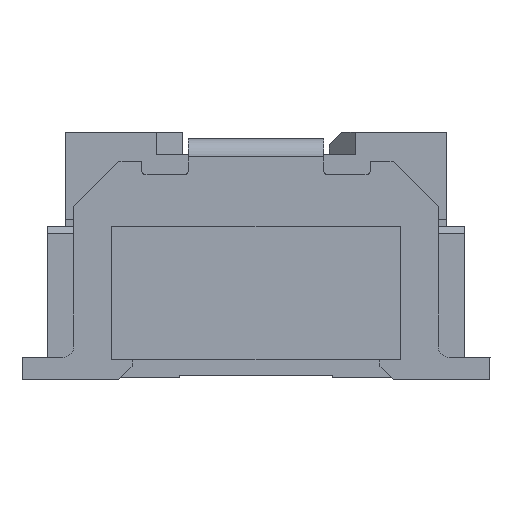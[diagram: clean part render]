
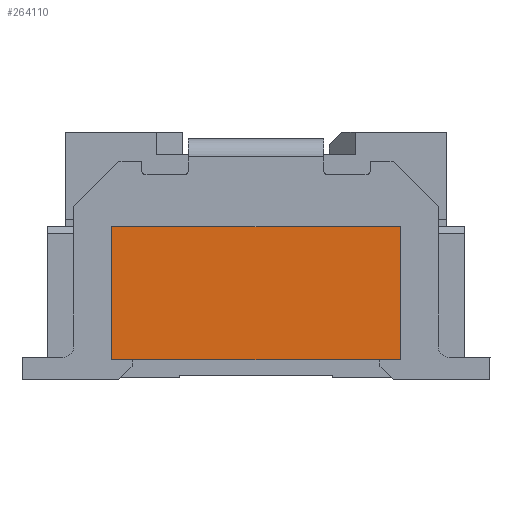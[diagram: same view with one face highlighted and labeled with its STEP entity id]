
A CAD part, left-side view. The second image highlights one B-rep face of the part: STEP entity #264110.
In plain terms, the highlighted planar face has unit normal (-1, 0, 0).
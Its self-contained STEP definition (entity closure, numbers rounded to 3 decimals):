
#248300=CARTESIAN_POINT('',(0.607,-0.02,
-3.22));
#248310=VERTEX_POINT('',#248300);
#248340=CARTESIAN_POINT('',(0.607,-0.02,
-5.031));
#248350=DIRECTION('',(0.,0.,-1.));
#248360=VECTOR('',#248350,1.);
#248370=LINE('',#248340,#248360);
#248380=CARTESIAN_POINT('',(0.607,-0.02,
3.18));
#248390=VERTEX_POINT('',#248380);
#248400=EDGE_CURVE('',#248390,#248310,#248370,.T.);
#263290=CARTESIAN_POINT('',(0.607,2.93,
-3.22));
#263300=VERTEX_POINT('',#263290);
#263330=CARTESIAN_POINT('',(0.607,-0.507,
-3.22));
#263340=DIRECTION('',(0.,-1.,0.));
#263350=VECTOR('',#263340,1.);
#263360=LINE('',#263330,#263350);
#263370=EDGE_CURVE('',#263300,#248310,#263360,.T.);
#263610=CARTESIAN_POINT('',(0.607,-0.507,
3.18));
#263620=DIRECTION('',(0.,1.,0.));
#263630=VECTOR('',#263620,1.);
#263640=LINE('',#263610,#263630);
#263650=CARTESIAN_POINT('',(0.607,2.93,
3.18));
#263660=VERTEX_POINT('',#263650);
#263670=EDGE_CURVE('',#248390,#263660,#263640,.T.);
#263950=CARTESIAN_POINT('',(0.607,2.93,
4.88));
#263960=DIRECTION('',(-1.,0.,0.));
#263970=DIRECTION('',(0.,1.,0.));
#263980=AXIS2_PLACEMENT_3D('',#263950,#263960,#263970);
#263990=PLANE('',#263980);
#264000=ORIENTED_EDGE('',*,*,#248400,.F.);
#264010=ORIENTED_EDGE('',*,*,#263370,.T.);
#264020=CARTESIAN_POINT('',(0.607,2.93,
-5.031));
#264030=DIRECTION('',(0.,0.,-1.));
#264040=VECTOR('',#264030,1.);
#264050=LINE('',#264020,#264040);
#264060=EDGE_CURVE('',#263660,#263300,#264050,.T.);
#264070=ORIENTED_EDGE('',*,*,#264060,.T.);
#264080=ORIENTED_EDGE('',*,*,#263670,.T.);
#264090=EDGE_LOOP('',(#264080,#264070,#264010,#264000));
#264100=FACE_OUTER_BOUND('',#264090,.T.);
#264110=ADVANCED_FACE('',(#264100),#263990,.T.);
